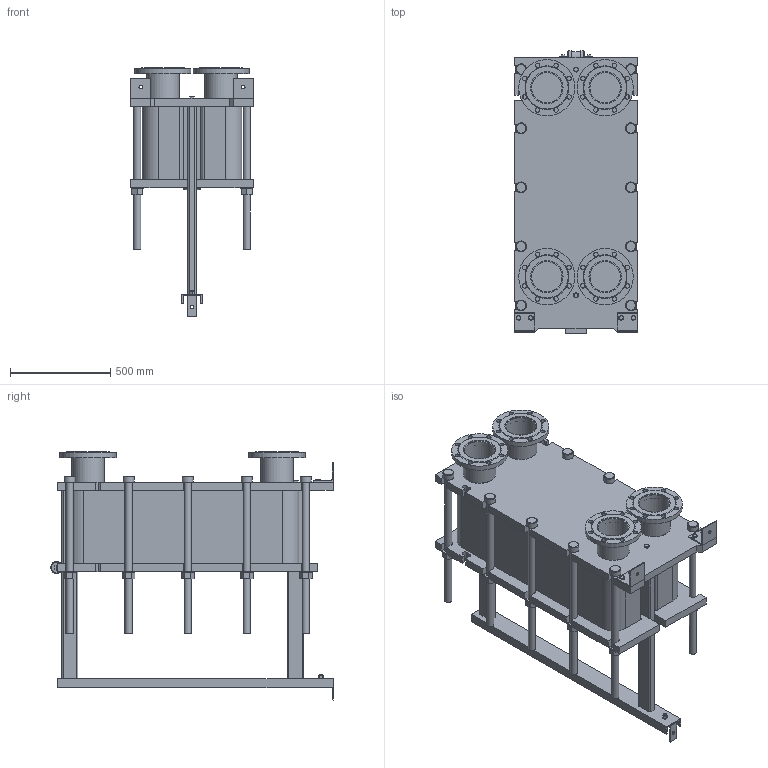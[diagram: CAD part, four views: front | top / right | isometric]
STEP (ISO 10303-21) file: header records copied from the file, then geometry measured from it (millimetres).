
FILE_DESCRIPTION(/* description */ (''),/* implementation_level */ '2;1');
FILE_NAME(/* name */ 'C:\Users\zhuro\Desktop\ENCO\TO\ЭН-041\ЭН-0,5-041-106-1.stp',/* time_stamp */ '2022-06-06T10:58:34+03:00',/* author */ ('zhuro'),/* organization */ (''),/* preprocessor_version */ 'ST-DEVELOPER v18.1',/* originating_system */ 'Autodesk Inventor 2022',/* authorisation */ '');
FILE_SCHEMA (('AUTOMOTIVE_DESIGN { 1 0 10303 214 3 1 1 }'));
Length unit declared in the file: millimetre
Products named in the file (1): ЭН-0,5-041-106-1
Bounding box: 610 x 1406.5 x 1235 mm (x, y, z)
Volume: 286578100.1 mm3; surface area: 9156806.2 mm2
Topology: 52 solids, 52 shells, 711 faces, 1696 edges, 1094 vertices
Faces by surface type: plane 487, cylinder 177, cone 41, torus 6
Full cylindrical faces by diameter (mm): 8 x4, 10 x2, 16 x8, 18 x3, 22 x32, 36 x24, 50 x1, 54 x10, 60 x12, 151 x4, 161 x8, 280 x4
Entity records: 22667 total; most frequent: CARTESIAN_POINT 5230, DIRECTION 3644, ORIENTED_EDGE 3392, EDGE_CURVE 1696, AXIS2_PLACEMENT_3D 1272, LINE 1100, VECTOR 1100, VERTEX_POINT 1094
